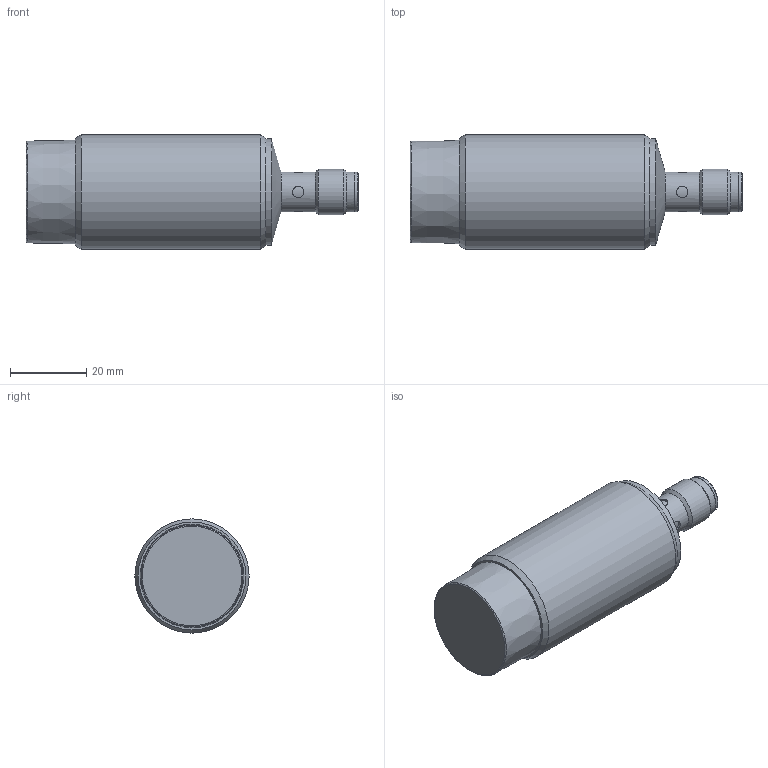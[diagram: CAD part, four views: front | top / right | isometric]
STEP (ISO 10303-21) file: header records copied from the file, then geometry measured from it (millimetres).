
FILE_DESCRIPTION(/* description */ (''),/* implementation_level */ '2;1');
FILE_NAME(/* name */ 'V:\AUTOCAD\_tegninger\Stepfiles - 3D\ICS\ICS30xxxxxxxxE1\ICS30L50N22xxM1E1.stp',/* time_stamp */ '2020-08-05T08:52:34+02:00',/* author */ ('TVB'),/* organization */ (''),/* preprocessor_version */ 'ST-DEVELOPER v18',/* originating_system */ 'Autodesk Inventor 2020',/* authorisation */ '');
FILE_SCHEMA (('AUTOMOTIVE_DESIGN { 1 0 10303 214 3 1 1 }'));
Length unit declared in the file: millimetre
Products named in the file (1): ICS30L50N22xxM1E1
Bounding box: 87.2 x 30 x 30 mm (x, y, z)
Volume: 45767.5 mm3; surface area: 8945.1 mm2
Topology: 1 solids, 1 shells, 80 faces, 227 edges, 151 vertices
Faces by surface type: cylinder 28, plane 25, cone 16, torus 6, sphere 4, bspline 1
Full cylindrical faces by diameter (mm): 1 x4, 3 x4, 8.157 x1, 9.37 x1, 9.5 x1, 10.5 x2, 12 x1, 28 x1, 30 x1
Entity records: 3844 total; most frequent: CARTESIAN_POINT 1648, DIRECTION 453, ORIENTED_EDGE 446, EDGE_CURVE 223, AXIS2_PLACEMENT_3D 189, VERTEX_POINT 151, CIRCLE 107, EDGE_LOOP 90
